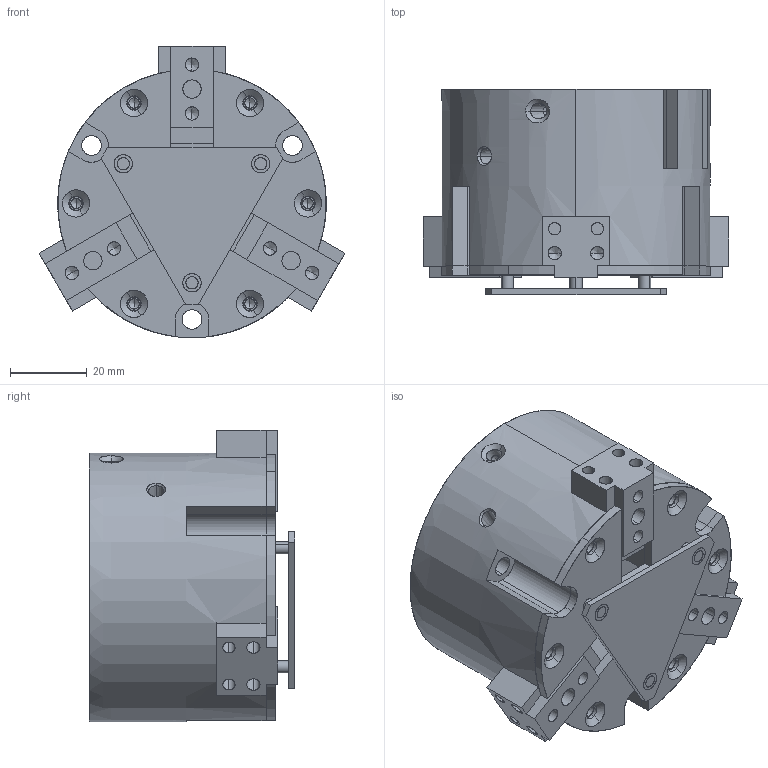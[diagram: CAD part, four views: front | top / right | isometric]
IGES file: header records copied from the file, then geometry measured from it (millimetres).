
Start section: SolidWorks IGES file using analytic representation for surfaces
Global section: file name: C:\Users\jmkuhnes\Pictures\My Transfers\AGP-43\AGP-43 OPEN in IN.IGS; native system: SolidWorks 2013; preprocessor: SolidWorks 2013; author: jmkuhnes; date: 141105.081456; units: inch
Bounding box: 79.56 x 53.43 x 75.82 mm (x, y, z)
Surface area: 41428.4 mm2 (no closed solid volume)
Topology: 0 solids, 0 shells, 325 faces, 5016 edges, 4976 vertices
Faces by surface type: revolution 194, bspline 131
